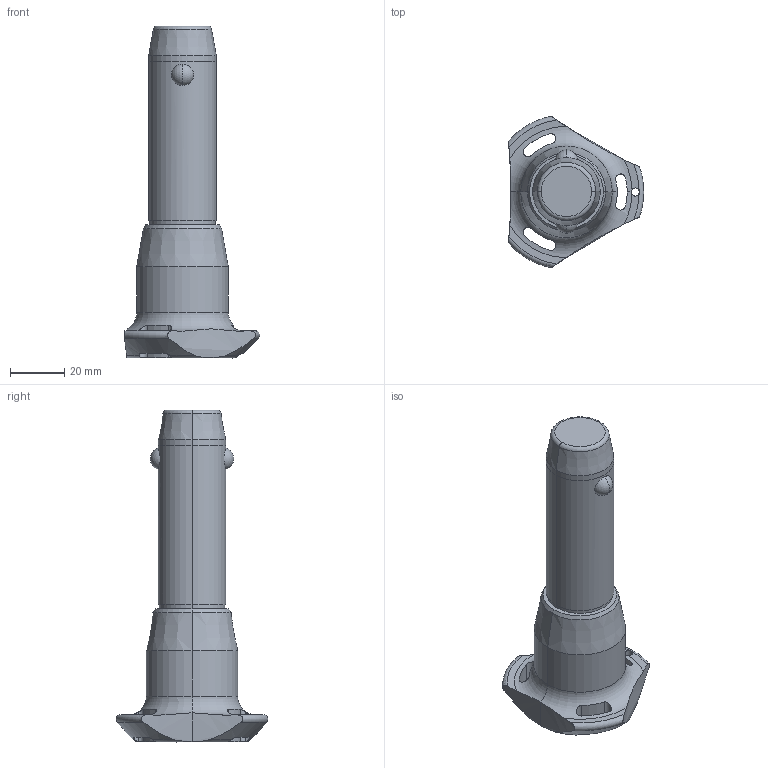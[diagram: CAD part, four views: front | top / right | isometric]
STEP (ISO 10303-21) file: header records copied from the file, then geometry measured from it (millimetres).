
FILE_DESCRIPTION (( 'STEP AP203' ), '1' );
FILE_NAME ('QR1716.M25-050-T.step', '2025-11-13T10:45:20', ( '' ), ( '' ), 'SwSTEP 2.0', 'SolidWorks 2019', '' );
FILE_SCHEMA (( 'CONFIG_CONTROL_DESIGN' ));
Length unit declared in the file: millimetre
Products named in the file (1): QR1716.M25-050-T
Bounding box: 50.04 x 56.02 x 122.7 mm (x, y, z)
Volume: 82995.5 mm3; surface area: 15376.8 mm2
Topology: 1 solids, 1 shells, 68 faces, 182 edges, 115 vertices
Faces by surface type: cylinder 32, cone 14, torus 11, sphere 6, plane 5
Entity records: 2938 total; most frequent: CARTESIAN_POINT 1192, ORIENTED_EDGE 364, DIRECTION 345, EDGE_CURVE 182, AXIS2_PLACEMENT_3D 154, VERTEX_POINT 115, CIRCLE 85, EDGE_LOOP 75
